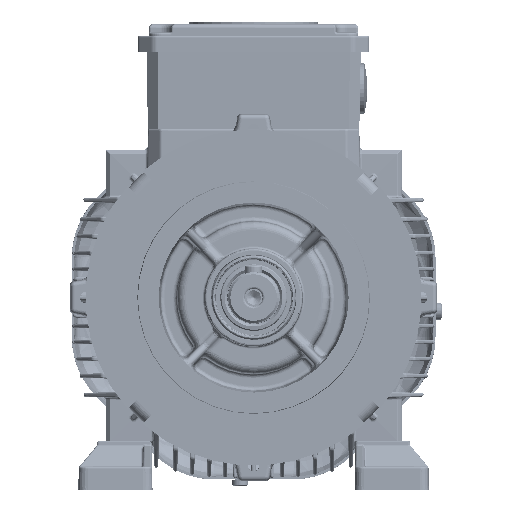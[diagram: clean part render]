
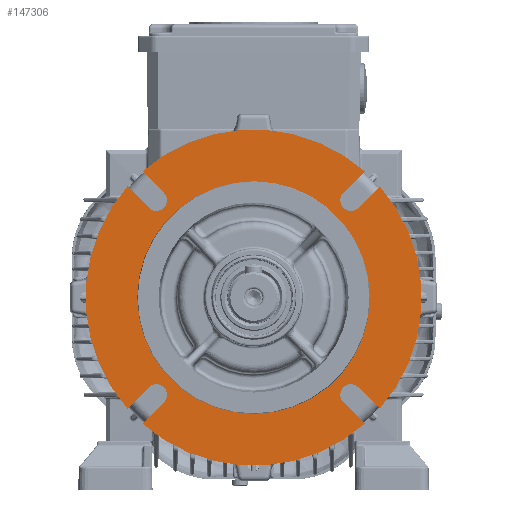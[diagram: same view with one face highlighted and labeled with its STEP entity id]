
A CAD part, left-side view. The second image highlights one B-rep face of the part: STEP entity #147306.
In plain terms, the highlighted planar face has unit normal (-1, 0, 0).
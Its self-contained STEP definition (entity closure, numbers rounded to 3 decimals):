
#20451=LINE('',#379033,#29075);
#20452=LINE('',#379034,#29076);
#20453=LINE('',#379038,#29077);
#20454=LINE('',#379039,#29078);
#20455=LINE('',#379043,#29079);
#20456=LINE('',#379044,#29080);
#20457=LINE('',#379048,#29081);
#20458=LINE('',#379049,#29082);
#29075=VECTOR('',#231318,1.);
#29076=VECTOR('',#231319,1.);
#29077=VECTOR('',#231322,1.);
#29078=VECTOR('',#231323,1.);
#29079=VECTOR('',#231326,1.);
#29080=VECTOR('',#231327,1.);
#29081=VECTOR('',#231330,1.);
#29082=VECTOR('',#231331,1.);
#46284=PLANE('',#190293);
#56916=EDGE_LOOP('',(#101679));
#56917=EDGE_LOOP('',(#101680,#101681,#101682,#101683,#101684,#101685,#101686,
#101687,#101688,#101689,#101690,#101691,#101692,#101693,#101694,#101695));
#101679=ORIENTED_EDGE('',*,*,#130543,.T.);
#101680=ORIENTED_EDGE('',*,*,#130544,.T.);
#101681=ORIENTED_EDGE('',*,*,#130545,.T.);
#101682=ORIENTED_EDGE('',*,*,#130526,.T.);
#101683=ORIENTED_EDGE('',*,*,#130546,.T.);
#101684=ORIENTED_EDGE('',*,*,#130547,.T.);
#101685=ORIENTED_EDGE('',*,*,#130548,.T.);
#101686=ORIENTED_EDGE('',*,*,#130539,.T.);
#101687=ORIENTED_EDGE('',*,*,#130549,.T.);
#101688=ORIENTED_EDGE('',*,*,#130550,.T.);
#101689=ORIENTED_EDGE('',*,*,#130551,.T.);
#101690=ORIENTED_EDGE('',*,*,#130533,.T.);
#101691=ORIENTED_EDGE('',*,*,#130552,.T.);
#101692=ORIENTED_EDGE('',*,*,#130553,.T.);
#101693=ORIENTED_EDGE('',*,*,#130554,.T.);
#101694=ORIENTED_EDGE('',*,*,#130524,.T.);
#101695=ORIENTED_EDGE('',*,*,#130555,.T.);
#130524=EDGE_CURVE('',#163482,#163481,#172657,.T.);
#130526=EDGE_CURVE('',#163483,#163484,#172658,.T.);
#130533=EDGE_CURVE('',#163488,#163487,#172660,.T.);
#130539=EDGE_CURVE('',#163492,#163491,#172662,.T.);
#130543=EDGE_CURVE('',#163495,#163495,#172665,.T.);
#130544=EDGE_CURVE('',#163496,#163497,#172666,.T.);
#130545=EDGE_CURVE('',#163497,#163483,#20451,.T.);
#130546=EDGE_CURVE('',#163484,#163498,#20452,.T.);
#130547=EDGE_CURVE('',#163498,#163499,#172667,.T.);
#130548=EDGE_CURVE('',#163499,#163492,#20453,.T.);
#130549=EDGE_CURVE('',#163491,#163500,#20454,.T.);
#130550=EDGE_CURVE('',#163500,#163501,#172668,.T.);
#130551=EDGE_CURVE('',#163501,#163488,#20455,.T.);
#130552=EDGE_CURVE('',#163487,#163502,#20456,.T.);
#130553=EDGE_CURVE('',#163502,#163503,#172669,.T.);
#130554=EDGE_CURVE('',#163503,#163482,#20457,.T.);
#130555=EDGE_CURVE('',#163481,#163496,#20458,.T.);
#147306=ADVANCED_FACE('',(#150425,#150426),#46284,.T.);
#150425=FACE_BOUND('',#56916,.T.);
#150426=FACE_BOUND('',#56917,.T.);
#163481=VERTEX_POINT('',#378952);
#163482=VERTEX_POINT('',#378954);
#163483=VERTEX_POINT('',#378958);
#163484=VERTEX_POINT('',#378959);
#163487=VERTEX_POINT('',#378988);
#163488=VERTEX_POINT('',#378990);
#163491=VERTEX_POINT('',#379018);
#163492=VERTEX_POINT('',#379020);
#163495=VERTEX_POINT('',#379029);
#163496=VERTEX_POINT('',#379031);
#163497=VERTEX_POINT('',#379032);
#163498=VERTEX_POINT('',#379035);
#163499=VERTEX_POINT('',#379037);
#163500=VERTEX_POINT('',#379040);
#163501=VERTEX_POINT('',#379042);
#163502=VERTEX_POINT('',#379045);
#163503=VERTEX_POINT('',#379047);
#172657=CIRCLE('',#190273,79.5);
#172658=CIRCLE('',#190275,79.5);
#172660=CIRCLE('',#190279,79.5);
#172662=CIRCLE('',#190283,79.5);
#172665=CIRCLE('',#190288,55.);
#172666=CIRCLE('',#190289,5.);
#172667=CIRCLE('',#190290,5.);
#172668=CIRCLE('',#190291,5.);
#172669=CIRCLE('',#190292,5.);
#190273=AXIS2_PLACEMENT_3D('',#378953,#231277,#231278);
#190275=AXIS2_PLACEMENT_3D('',#378957,#231282,#231283);
#190279=AXIS2_PLACEMENT_3D('',#378989,#231293,#231294);
#190283=AXIS2_PLACEMENT_3D('',#379019,#231303,#231304);
#190288=AXIS2_PLACEMENT_3D('',#379028,#231314,#231315);
#190289=AXIS2_PLACEMENT_3D('',#379030,#231316,#231317);
#190290=AXIS2_PLACEMENT_3D('',#379036,#231320,#231321);
#190291=AXIS2_PLACEMENT_3D('',#379041,#231324,#231325);
#190292=AXIS2_PLACEMENT_3D('',#379046,#231328,#231329);
#190293=AXIS2_PLACEMENT_3D('',#379050,#231332,#231333);
#231277=DIRECTION('',(-1.,0.,0.));
#231278=DIRECTION('',(0.,0.,-1.));
#231282=DIRECTION('',(-1.,0.,0.));
#231283=DIRECTION('',(0.,0.,-1.));
#231293=DIRECTION('',(-1.,0.,0.));
#231294=DIRECTION('',(0.,0.,-1.));
#231303=DIRECTION('',(-1.,0.,0.));
#231304=DIRECTION('',(0.,0.,-1.));
#231314=DIRECTION('',(1.,0.,0.));
#231315=DIRECTION('',(0.,0.,-1.));
#231316=DIRECTION('',(1.,0.,0.));
#231317=DIRECTION('',(0.,1.,0.));
#231318=DIRECTION('',(0.,0.707,-0.707));
#231319=DIRECTION('',(0.,0.707,0.707));
#231320=DIRECTION('',(1.,0.,0.));
#231321=DIRECTION('',(0.,0.,-1.));
#231322=DIRECTION('',(0.,-0.707,-0.707));
#231323=DIRECTION('',(0.,0.707,-0.707));
#231324=DIRECTION('',(1.,0.,0.));
#231325=DIRECTION('',(0.,-1.,0.));
#231326=DIRECTION('',(0.,-0.707,0.707));
#231327=DIRECTION('',(0.,-0.707,-0.707));
#231328=DIRECTION('',(1.,0.,0.));
#231329=DIRECTION('',(0.,0.,1.));
#231330=DIRECTION('',(0.,0.707,0.707));
#231331=DIRECTION('',(0.,-0.707,0.707));
#231332=DIRECTION('',(-1.,0.,0.));
#231333=DIRECTION('',(0.,0.,1.));
#378952=CARTESIAN_POINT('',(-51.499,77.909,29.842));
#378953=CARTESIAN_POINT('',(-51.499,18.27,82.411));
#378954=CARTESIAN_POINT('',(-51.499,77.909,134.979));
#378957=CARTESIAN_POINT('',(-51.499,18.27,82.411));
#378958=CARTESIAN_POINT('',(-51.499,70.838,22.771));
#378959=CARTESIAN_POINT('',(-51.499,-34.298,22.771));
#378988=CARTESIAN_POINT('',(-51.499,70.838,142.05));
#378989=CARTESIAN_POINT('',(-51.499,18.27,82.411));
#378990=CARTESIAN_POINT('',(-51.499,-34.298,142.05));
#379018=CARTESIAN_POINT('',(-51.499,-41.369,134.979));
#379019=CARTESIAN_POINT('',(-51.499,18.27,82.411));
#379020=CARTESIAN_POINT('',(-51.499,-41.369,29.842));
#379028=CARTESIAN_POINT('',(-51.499,18.27,82.411));
#379029=CARTESIAN_POINT('',(-51.499,18.27,27.411));
#379030=CARTESIAN_POINT('',(-51.499,64.232,36.449));
#379031=CARTESIAN_POINT('',(-51.499,67.767,39.984));
#379032=CARTESIAN_POINT('',(-51.499,60.696,32.913));
#379033=CARTESIAN_POINT('',(-51.499,60.696,32.913));
#379034=CARTESIAN_POINT('',(-51.499,-45.37,11.7));
#379035=CARTESIAN_POINT('',(-51.499,-24.156,32.913));
#379036=CARTESIAN_POINT('',(-51.499,-27.692,36.449));
#379037=CARTESIAN_POINT('',(-51.499,-31.228,39.984));
#379038=CARTESIAN_POINT('',(-51.499,-31.228,39.984));
#379039=CARTESIAN_POINT('',(-51.499,-52.441,146.05));
#379040=CARTESIAN_POINT('',(-51.499,-31.228,124.837));
#379041=CARTESIAN_POINT('',(-51.499,-27.692,128.372));
#379042=CARTESIAN_POINT('',(-51.499,-24.157,131.908));
#379043=CARTESIAN_POINT('',(-51.499,-24.157,131.908));
#379044=CARTESIAN_POINT('',(-51.499,81.909,153.121));
#379045=CARTESIAN_POINT('',(-51.499,60.696,131.908));
#379046=CARTESIAN_POINT('',(-51.499,64.232,128.373));
#379047=CARTESIAN_POINT('',(-51.499,67.767,124.837));
#379048=CARTESIAN_POINT('',(-51.499,67.767,124.837));
#379049=CARTESIAN_POINT('',(-51.499,88.981,18.771));
#379050=CARTESIAN_POINT('',(-51.499,18.27,82.411));
